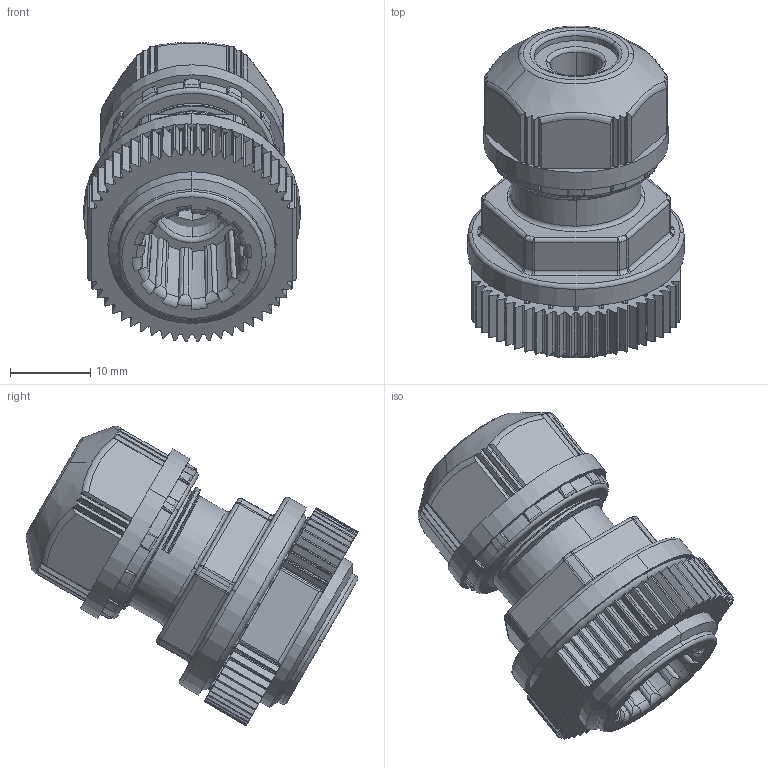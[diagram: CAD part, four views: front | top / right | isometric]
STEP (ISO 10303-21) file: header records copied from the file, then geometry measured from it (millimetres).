
FILE_DESCRIPTION(('CoCreate Modeling STEP Export'),'2;1');
FILE_NAME('OA-W1606_公開データ.stp','2011-07-13T11:18:38',(''),(''),'CoCreate Modeling STEP processor for AP214 (Solid Model)','CoCreate Modeling 17.00A 17-Jun-2010 (C) Parametric Technology GmbH','');
FILE_SCHEMA(('AUTOMOTIVE_DESIGN { 1 0 10303 214 1 1 1 1 }'));
Length unit declared in the file: millimetre
Products named in the file (5): OA-W1606; ゴムブッシュ; ロックナット
Assembly tree (2 placements, depth 2):
  OA-W1606
    OA-W1606
  ゴムブッシュ
  ロックナット
    ロックナット
Bounding box: 27 x 41.41 x 37.35 mm (x, y, z)
Volume: 12410.3 mm3; surface area: 8680 mm2
Topology: 3 solids, 3 shells, 1040 faces, 2883 edges, 1801 vertices
Faces by surface type: cylinder 444, plane 332, torus 84, bspline 72, sphere 62, cone 46
Entity records: 46790 total; most frequent: CARTESIAN_POINT 22578, ORIENTED_EDGE 5642, DIRECTION 4359, EDGE_CURVE 2821, VERTEX_POINT 1801, AXIS2_PLACEMENT_3D 1568, VECTOR 1223, LINE 1223
